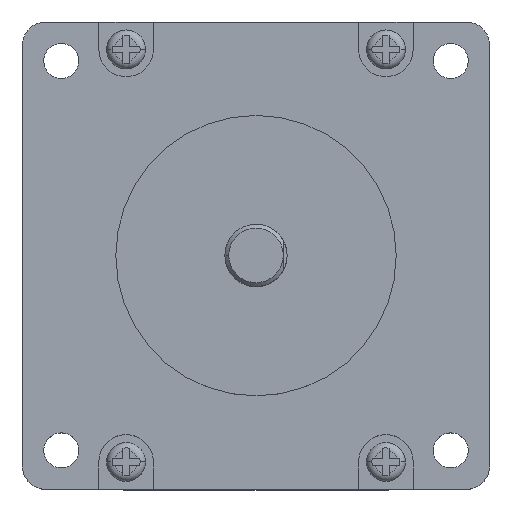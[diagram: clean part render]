
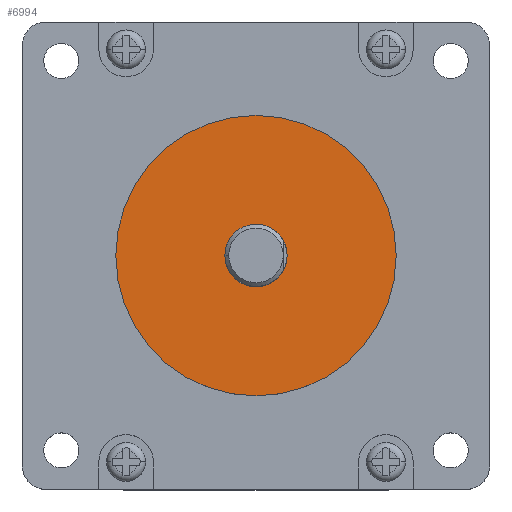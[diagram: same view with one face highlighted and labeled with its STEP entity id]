
A CAD part, top view. The second image highlights one B-rep face of the part: STEP entity #6994.
In plain terms, the highlighted planar face has unit normal (0, 0, 1).
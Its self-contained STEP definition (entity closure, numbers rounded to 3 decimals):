
#254 = EDGE_LOOP ( 'NONE', ( #795, #794 ) ) ;
#264 = EDGE_LOOP ( 'NONE', ( #797, #796 ) ) ;
#794 = ORIENTED_EDGE ( 'NONE', *, *, #2593, .F. ) ;
#795 = ORIENTED_EDGE ( 'NONE', *, *, #5830, .F. ) ;
#796 = ORIENTED_EDGE ( 'NONE', *, *, #5610, .T. ) ;
#797 = ORIENTED_EDGE ( 'NONE', *, *, #5831, .T. ) ;
#1278 = VERTEX_POINT ( 'NONE', #5137 ) ;
#1500 = AXIS2_PLACEMENT_3D ( 'NONE', #3663, #3664, #3665 ) ;
#1597 = AXIS2_PLACEMENT_3D ( 'NONE', #4254, #4256, #4257 ) ;
#1600 = AXIS2_PLACEMENT_3D ( 'NONE', #4251, #4258, #4259 ) ;
#1620 = AXIS2_PLACEMENT_3D ( 'NONE', #4571, #4574, #4575 ) ;
#1804 = CIRCLE ( 'NONE', #1500, 18. ) ;
#2187 = CIRCLE ( 'NONE', #1597, 4. ) ;
#2189 = CIRCLE ( 'NONE', #1600, 18. ) ;
#2267 = FACE_OUTER_BOUND ( 'NONE', #264, .T. ) ;
#2268 = FACE_BOUND ( 'NONE', #254, .T. ) ;
#2593 = EDGE_CURVE ( 'NONE', #6317, #6275, #6453, .T. ) ;
#2713 = AXIS2_PLACEMENT_3D ( 'NONE', #5446, #5262, #5253 ) ;
#3663 = CARTESIAN_POINT ( 'NONE',  ( 0., 0., 4.1 ) ) ;
#3664 = DIRECTION ( 'NONE',  ( 0., 0., 1. ) ) ;
#3665 = DIRECTION ( 'NONE',  ( 1., 0., 0. ) ) ;
#4251 = CARTESIAN_POINT ( 'NONE',  ( 0., 0., 4.1 ) ) ;
#4254 = CARTESIAN_POINT ( 'NONE',  ( 0., 0., 4.1 ) ) ;
#4256 = DIRECTION ( 'NONE',  ( 0., 0., 1. ) ) ;
#4257 = DIRECTION ( 'NONE',  ( 1., 0., 0. ) ) ;
#4258 = DIRECTION ( 'NONE',  ( 0., 0., 1. ) ) ;
#4259 = DIRECTION ( 'NONE',  ( 1., 0., 0. ) ) ;
#4406 = CARTESIAN_POINT ( 'NONE',  ( -4., 0., 4.1 ) ) ;
#4448 = CARTESIAN_POINT ( 'NONE',  ( 4., 0., 4.1 ) ) ;
#4494 = CARTESIAN_POINT ( 'NONE',  ( 18., 0., 4.1 ) ) ;
#4571 = CARTESIAN_POINT ( 'NONE',  ( 0., 0., 4.1 ) ) ;
#4572 = PLANE ( 'NONE',  #1620 ) ;
#4574 = DIRECTION ( 'NONE',  ( 0., 0., 1. ) ) ;
#4575 = DIRECTION ( 'NONE',  ( 1., 0., 0. ) ) ;
#5137 = CARTESIAN_POINT ( 'NONE',  ( -18., 0., 4.1 ) ) ;
#5253 = DIRECTION ( 'NONE',  ( 1., 0., 0. ) ) ;
#5262 = DIRECTION ( 'NONE',  ( 0., 0., 1. ) ) ;
#5446 = CARTESIAN_POINT ( 'NONE',  ( 0., 0., 4.1 ) ) ;
#5610 = EDGE_CURVE ( 'NONE', #6363, #1278, #1804, .T. ) ;
#5830 = EDGE_CURVE ( 'NONE', #6275, #6317, #2187, .T. ) ;
#5831 = EDGE_CURVE ( 'NONE', #1278, #6363, #2189, .T. ) ;
#6275 = VERTEX_POINT ( 'NONE', #4406 ) ;
#6317 = VERTEX_POINT ( 'NONE', #4448 ) ;
#6363 = VERTEX_POINT ( 'NONE', #4494 ) ;
#6453 = CIRCLE ( 'NONE', #2713, 4. ) ;
#6994 = ADVANCED_FACE ( 'NONE', ( #2267, #2268 ), #4572, .T. ) ;
